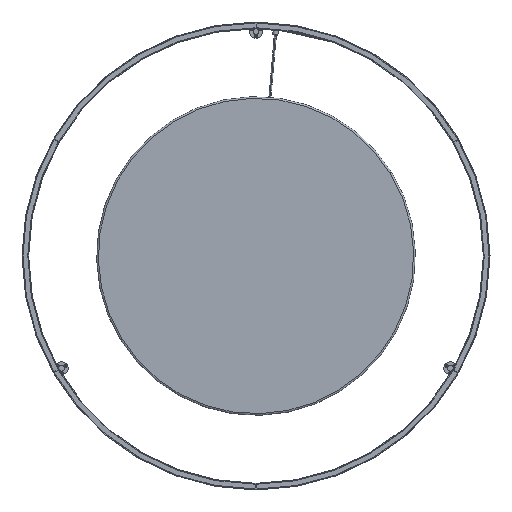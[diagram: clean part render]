
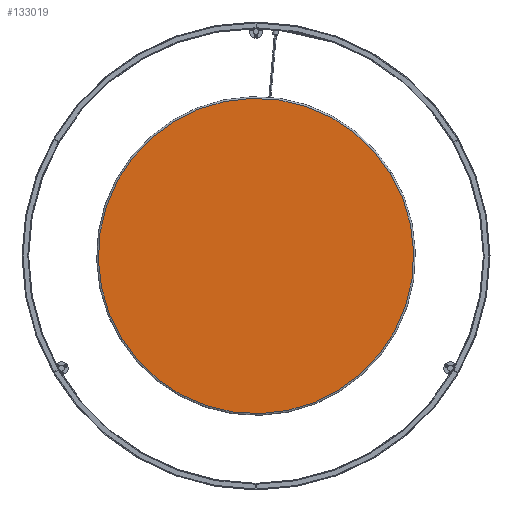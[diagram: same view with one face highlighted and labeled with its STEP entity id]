
A CAD part, front view. The second image highlights one B-rep face of the part: STEP entity #133019.
In plain terms, the highlighted planar face has unit normal (0, -1, 0).
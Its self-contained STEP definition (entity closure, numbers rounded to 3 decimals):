
#1921 = EDGE_LOOP ( 'NONE', ( #58870, #38624 ) ) ;
#7666 = CIRCLE ( 'NONE', #104636, 539.1 ) ;
#7770 = DIRECTION ( 'NONE',  ( 0., 1., 0. ) ) ;
#16935 = FACE_OUTER_BOUND ( 'NONE', #1921, .T. ) ;
#28208 = PLANE ( 'NONE',  #67250 ) ;
#38624 = ORIENTED_EDGE ( 'NONE', *, *, #60587, .F. ) ;
#45739 = CIRCLE ( 'NONE', #79844, 539.1 ) ;
#58870 = ORIENTED_EDGE ( 'NONE', *, *, #62453, .F. ) ;
#60587 = EDGE_CURVE ( 'NONE', #126722, #81775, #7666, .T. ) ;
#62453 = EDGE_CURVE ( 'NONE', #81775, #126722, #45739, .T. ) ;
#67250 = AXIS2_PLACEMENT_3D ( 'NONE', #113697, #7770, #82602 ) ;
#79844 = AXIS2_PLACEMENT_3D ( 'NONE', #137266, #113981, #125266 ) ;
#81775 = VERTEX_POINT ( 'NONE', #110653 ) ;
#82602 = DIRECTION ( 'NONE',  ( 0., 0., 1. ) ) ;
#97770 = DIRECTION ( 'NONE',  ( 0., 0., 1. ) ) ;
#104636 = AXIS2_PLACEMENT_3D ( 'NONE', #138071, #138778, #97770 ) ;
#110653 = CARTESIAN_POINT ( 'NONE',  ( 0., -1., 539.1 ) ) ;
#113697 = CARTESIAN_POINT ( 'NONE',  ( 0., -1., 0. ) ) ;
#113981 = DIRECTION ( 'NONE',  ( 0., 1., 0. ) ) ;
#125266 = DIRECTION ( 'NONE',  ( 0., 0., 1. ) ) ;
#126722 = VERTEX_POINT ( 'NONE', #132226 ) ;
#132226 = CARTESIAN_POINT ( 'NONE',  ( 0., -1., -539.1 ) ) ;
#133019 = ADVANCED_FACE ( 'NONE', ( #16935 ), #28208, .F. ) ;
#137266 = CARTESIAN_POINT ( 'NONE',  ( 0., -1., 0. ) ) ;
#138071 = CARTESIAN_POINT ( 'NONE',  ( 0., -1., 0. ) ) ;
#138778 = DIRECTION ( 'NONE',  ( 0., 1., 0. ) ) ;
